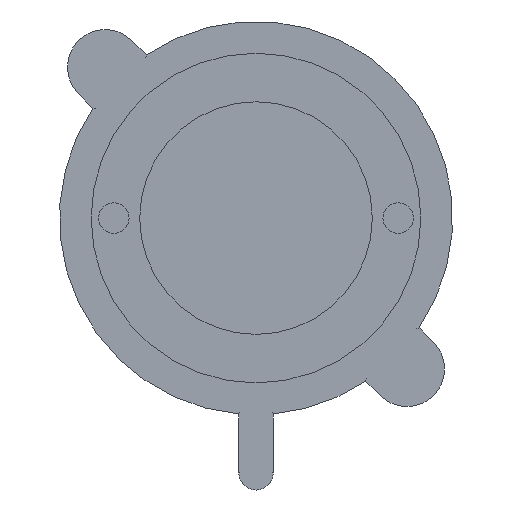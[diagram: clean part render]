
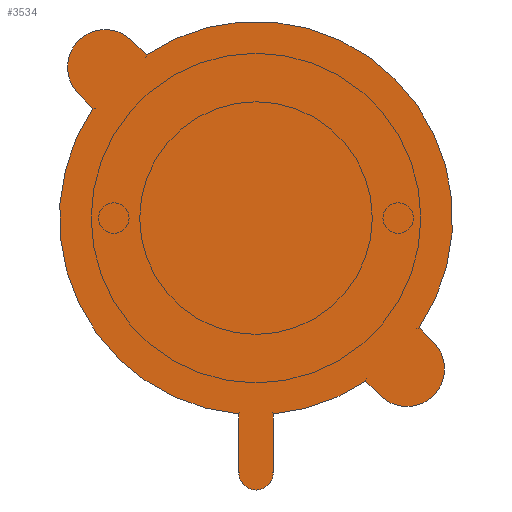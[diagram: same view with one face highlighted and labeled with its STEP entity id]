
A CAD part, top view. The second image highlights one B-rep face of the part: STEP entity #3534.
In plain terms, the highlighted planar face has unit normal (0, 0, 1).
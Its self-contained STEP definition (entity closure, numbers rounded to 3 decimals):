
#1173=LINE('',#21371,#1871);
#1175=LINE('',#21377,#1873);
#1188=LINE('',#21431,#1886);
#1191=LINE('',#21439,#1889);
#1193=LINE('',#21443,#1891);
#1195=LINE('',#21449,#1893);
#1871=VECTOR('',#13744,1.);
#1873=VECTOR('',#13752,1.);
#1886=VECTOR('',#13815,1.);
#1889=VECTOR('',#13824,1.);
#1891=VECTOR('',#13828,1.);
#1893=VECTOR('',#13836,1.);
#3534=ADVANCED_FACE('',(#4363),#3968,.T.);
#3968=PLANE('',#11848);
#4363=FACE_OUTER_BOUND('',#5104,.T.);
#5104=EDGE_LOOP('',(#7086,#7087,#7088,#7089,#7090,#7091,#7092,#7093,#7094,
#7095,#7096,#7097));
#7086=ORIENTED_EDGE('',*,*,#10173,.F.);
#7087=ORIENTED_EDGE('',*,*,#10175,.F.);
#7088=ORIENTED_EDGE('',*,*,#10176,.F.);
#7089=ORIENTED_EDGE('',*,*,#10148,.F.);
#7090=ORIENTED_EDGE('',*,*,#10203,.F.);
#7091=ORIENTED_EDGE('',*,*,#10201,.F.);
#7092=ORIENTED_EDGE('',*,*,#10199,.F.);
#7093=ORIENTED_EDGE('',*,*,#10146,.F.);
#7094=ORIENTED_EDGE('',*,*,#10205,.F.);
#7095=ORIENTED_EDGE('',*,*,#10207,.F.);
#7096=ORIENTED_EDGE('',*,*,#10208,.F.);
#7097=ORIENTED_EDGE('',*,*,#10152,.F.);
#8901=VERTEX_POINT('',#21292);
#8902=VERTEX_POINT('',#21294);
#8903=VERTEX_POINT('',#21301);
#8904=VERTEX_POINT('',#21302);
#8905=VERTEX_POINT('',#21316);
#8906=VERTEX_POINT('',#21318);
#8921=VERTEX_POINT('',#21370);
#8922=VERTEX_POINT('',#21374);
#8939=VERTEX_POINT('',#21432);
#8940=VERTEX_POINT('',#21436);
#8941=VERTEX_POINT('',#21442);
#8942=VERTEX_POINT('',#21446);
#10146=EDGE_CURVE('',#8901,#8902,#11112,.T.);
#10148=EDGE_CURVE('',#8903,#8904,#11113,.T.);
#10152=EDGE_CURVE('',#8905,#8906,#11114,.T.);
#10173=EDGE_CURVE('',#8921,#8905,#1173,.T.);
#10175=EDGE_CURVE('',#8922,#8921,#11127,.T.);
#10176=EDGE_CURVE('',#8904,#8922,#1175,.T.);
#10199=EDGE_CURVE('',#8902,#8939,#1188,.T.);
#10201=EDGE_CURVE('',#8939,#8940,#11138,.T.);
#10203=EDGE_CURVE('',#8940,#8903,#1191,.T.);
#10205=EDGE_CURVE('',#8941,#8901,#1193,.T.);
#10207=EDGE_CURVE('',#8942,#8941,#11139,.T.);
#10208=EDGE_CURVE('',#8906,#8942,#1195,.T.);
#11112=CIRCLE('',#11779,23.5);
#11113=CIRCLE('',#11781,23.5);
#11114=CIRCLE('',#11783,23.5);
#11127=CIRCLE('',#11811,2.05);
#11138=CIRCLE('',#11839,4.5);
#11139=CIRCLE('',#11843,4.5);
#11779=AXIS2_PLACEMENT_3D('',#21293,#13675,#13676);
#11781=AXIS2_PLACEMENT_3D('',#21300,#13679,#13680);
#11783=AXIS2_PLACEMENT_3D('',#21317,#13683,#13684);
#11811=AXIS2_PLACEMENT_3D('',#21375,#13748,#13749);
#11839=AXIS2_PLACEMENT_3D('',#21435,#13819,#13820);
#11843=AXIS2_PLACEMENT_3D('',#21447,#13832,#13833);
#11848=AXIS2_PLACEMENT_3D('',#21453,#13843,#13844);
#13675=DIRECTION('',(0.,0.,-1.));
#13676=DIRECTION('',(1.,0.,0.));
#13679=DIRECTION('',(0.,0.,-1.));
#13680=DIRECTION('',(1.,0.,0.));
#13683=DIRECTION('',(0.,0.,-1.));
#13684=DIRECTION('',(1.,0.,0.));
#13744=DIRECTION('',(0.,1.,0.));
#13748=DIRECTION('',(0.,0.,-1.));
#13749=DIRECTION('',(1.,0.,0.));
#13752=DIRECTION('',(0.,-1.,0.));
#13815=DIRECTION('',(0.707,-0.707,0.));
#13819=DIRECTION('',(0.,0.,-1.));
#13820=DIRECTION('',(1.,0.,0.));
#13824=DIRECTION('',(-0.707,0.707,0.));
#13828=DIRECTION('',(0.707,-0.707,0.));
#13832=DIRECTION('',(0.,0.,-1.));
#13833=DIRECTION('',(1.,0.,0.));
#13836=DIRECTION('',(-0.707,0.707,0.));
#13843=DIRECTION('',(0.,0.,1.));
#13844=DIRECTION('',(1.,0.,0.));
#21292=CARTESIAN_POINT('',(-13.128,18.741,56.));
#21293=CARTESIAN_POINT('',(0.,-0.75,56.));
#21294=CARTESIAN_POINT('',(19.491,-13.878,56.));
#21300=CARTESIAN_POINT('',(0.,-0.75,56.));
#21301=CARTESIAN_POINT('',(13.128,-20.241,56.));
#21302=CARTESIAN_POINT('',(2.05,-24.16,56.));
#21316=CARTESIAN_POINT('',(-2.05,-24.16,56.));
#21317=CARTESIAN_POINT('',(0.,-0.75,56.));
#21318=CARTESIAN_POINT('',(-19.491,12.378,56.));
#21370=CARTESIAN_POINT('',(-2.05,-31.2,56.));
#21371=CARTESIAN_POINT('',(-2.05,-24.199,56.));
#21374=CARTESIAN_POINT('',(2.05,-31.2,56.));
#21375=CARTESIAN_POINT('',(0.,-31.2,56.));
#21377=CARTESIAN_POINT('',(2.05,-31.2,56.));
#21431=CARTESIAN_POINT('',(3.182,2.432,56.));
#21432=CARTESIAN_POINT('',(21.213,-15.599,56.));
#21435=CARTESIAN_POINT('',(18.031,-18.781,56.));
#21436=CARTESIAN_POINT('',(14.849,-21.963,56.));
#21439=CARTESIAN_POINT('',(-3.182,-3.932,56.));
#21442=CARTESIAN_POINT('',(-14.849,20.463,56.));
#21443=CARTESIAN_POINT('',(3.182,2.432,56.));
#21446=CARTESIAN_POINT('',(-21.213,14.099,56.));
#21447=CARTESIAN_POINT('',(-18.031,17.281,56.));
#21449=CARTESIAN_POINT('',(-3.182,-3.932,56.));
#21453=CARTESIAN_POINT('',(0.,-0.75,56.));
